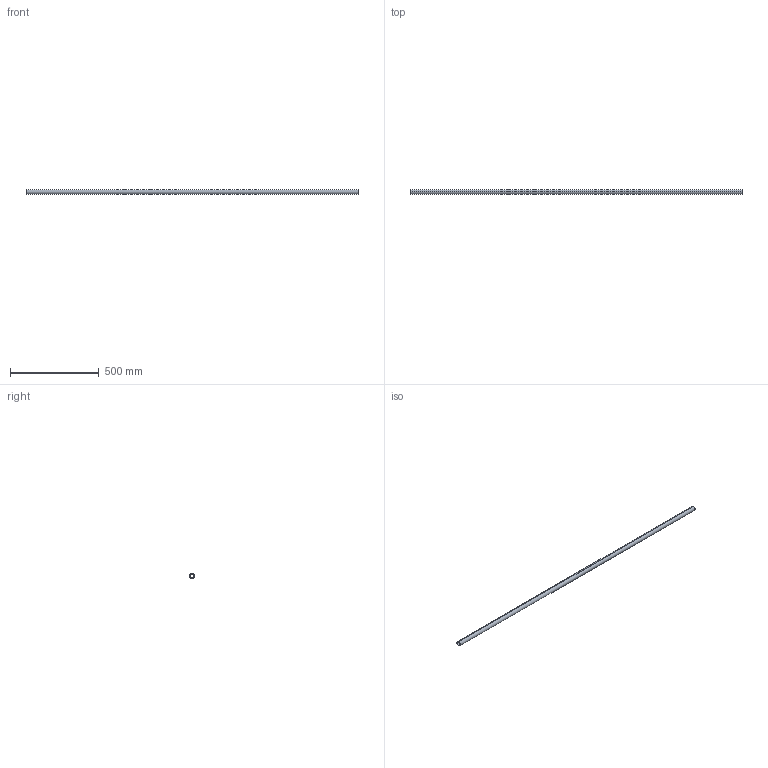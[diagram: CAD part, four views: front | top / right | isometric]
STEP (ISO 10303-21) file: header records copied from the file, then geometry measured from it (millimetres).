
FILE_DESCRIPTION (( 'STEP AP214' ), '1' );
FILE_NAME ('CCJ029-REP.218 - LISSE PLANCHER INFERIEUR B4-B5.STEP', '2024-01-10T14:59:18', ( '' ), ( '' ), 'SwSTEP 2.0', 'SolidWorks 2021', '' );
FILE_SCHEMA (( 'AUTOMOTIVE_DESIGN' ));
Length unit declared in the file: millimetre
Products named in the file (1): CCJ029-REP.218 - LISSE PLANCHER INFERIEUR B4-B5
Bounding box: 1870 x 26.9 x 26.9 mm (x, y, z)
Volume: 332395 mm3; surface area: 289394.6 mm2
Topology: 1 solids, 1 shells, 6 faces, 12 edges, 8 vertices
Faces by surface type: cylinder 4, plane 2
Entity records: 202 total; most frequent: DIRECTION 34, CARTESIAN_POINT 27, ORIENTED_EDGE 24, AXIS2_PLACEMENT_3D 15, EDGE_CURVE 12, CIRCLE 8, VERTEX_POINT 8, EDGE_LOOP 8
